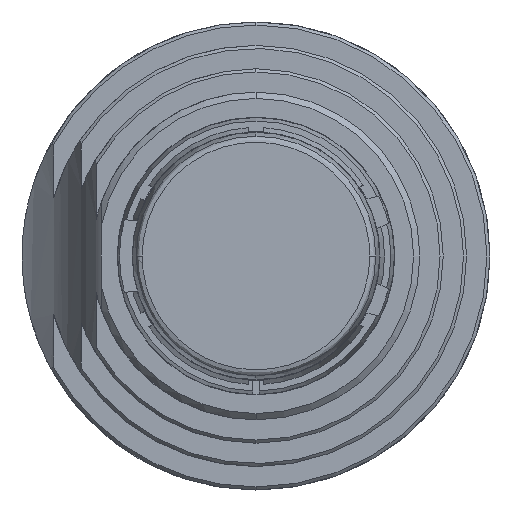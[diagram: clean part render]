
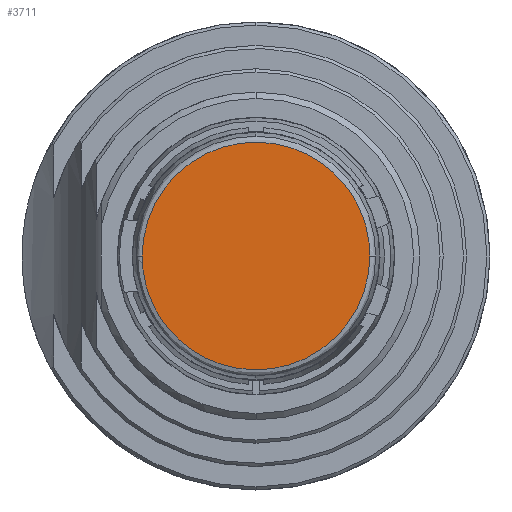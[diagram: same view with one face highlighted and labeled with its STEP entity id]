
A CAD part, left-side view. The second image highlights one B-rep face of the part: STEP entity #3711.
In plain terms, the highlighted planar face has unit normal (-1, 0, 0).
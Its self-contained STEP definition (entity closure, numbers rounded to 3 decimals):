
#1842 = FACE_OUTER_BOUND ( 'NONE', #4067, .T. ) ;
#1848 = AXIS2_PLACEMENT_3D ( 'NONE', #4584, #4585, #4586 ) ;
#3444 = EDGE_CURVE ( 'NONE', #11435, #11491, #5813, .T. ) ;
#3711 = ADVANCED_FACE ( 'NONE', ( #1842 ), #4583, .F. ) ;
#4067 = EDGE_LOOP ( 'NONE', ( #6058, #6057 ) ) ;
#4583 = PLANE ( 'NONE',  #1848 ) ;
#4584 = CARTESIAN_POINT ( 'NONE',  ( -36., 0., 0. ) ) ;
#4585 = DIRECTION ( 'NONE',  ( 1., 0., 0. ) ) ;
#4586 = DIRECTION ( 'NONE',  ( 0., 0., -1. ) ) ;
#5604 = CARTESIAN_POINT ( 'NONE',  ( -36., 3.648, 0. ) ) ;
#5605 = CARTESIAN_POINT ( 'NONE',  ( -36., 3.648, 7.297 ) ) ;
#5606 = CARTESIAN_POINT ( 'NONE',  ( -36., -3.648, 7.297 ) ) ;
#5607 = CARTESIAN_POINT ( 'NONE',  ( -36., -3.648, 0. ) ) ;
#5813 =( BOUNDED_CURVE ( )  B_SPLINE_CURVE ( 3, ( #5604, #5605, #5606, #5607 ),
 .UNSPECIFIED., .F., .F. ) 
 B_SPLINE_CURVE_WITH_KNOTS ( ( 4, 4 ),
 ( 0., 1. ),
 .UNSPECIFIED. ) 
 CURVE ( )  GEOMETRIC_REPRESENTATION_ITEM ( )  RATIONAL_B_SPLINE_CURVE ( ( 1., 0.333, 0.333, 1. ) ) 
 REPRESENTATION_ITEM ( '' )  );
#6057 = ORIENTED_EDGE ( 'NONE', *, *, #3444, .F. ) ;
#6058 = ORIENTED_EDGE ( 'NONE', *, *, #9644, .F. ) ;
#7731 = CARTESIAN_POINT ( 'NONE',  ( -36., -3.648, 0. ) ) ;
#8071 = CARTESIAN_POINT ( 'NONE',  ( -36., 3.648, 0. ) ) ;
#8113 = CARTESIAN_POINT ( 'NONE',  ( -36., -3.648, 0. ) ) ;
#8114 = CARTESIAN_POINT ( 'NONE',  ( -36., -3.648, -7.297 ) ) ;
#8115 = CARTESIAN_POINT ( 'NONE',  ( -36., 3.648, -7.297 ) ) ;
#8116 = CARTESIAN_POINT ( 'NONE',  ( -36., 3.648, 0. ) ) ;
#8411 =( BOUNDED_CURVE ( )  B_SPLINE_CURVE ( 3, ( #8113, #8114, #8115, #8116 ),
 .UNSPECIFIED., .F., .F. ) 
 B_SPLINE_CURVE_WITH_KNOTS ( ( 4, 4 ),
 ( 0., 1. ),
 .UNSPECIFIED. ) 
 CURVE ( )  GEOMETRIC_REPRESENTATION_ITEM ( )  RATIONAL_B_SPLINE_CURVE ( ( 1., 0.333, 0.333, 1. ) ) 
 REPRESENTATION_ITEM ( '' )  );
#9644 = EDGE_CURVE ( 'NONE', #11491, #11435, #8411, .T. ) ;
#11435 = VERTEX_POINT ( 'NONE', #8071 ) ;
#11491 = VERTEX_POINT ( 'NONE', #7731 ) ;
